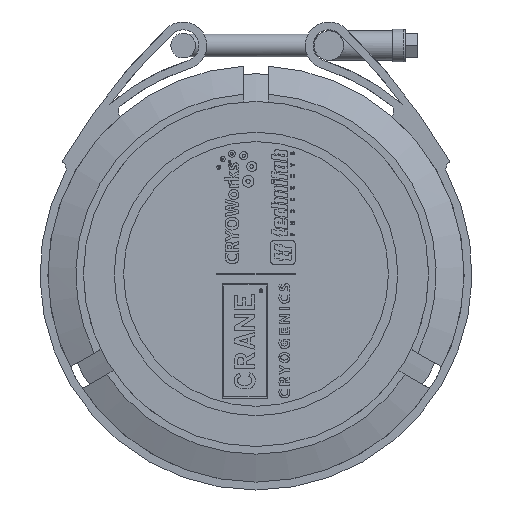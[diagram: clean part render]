
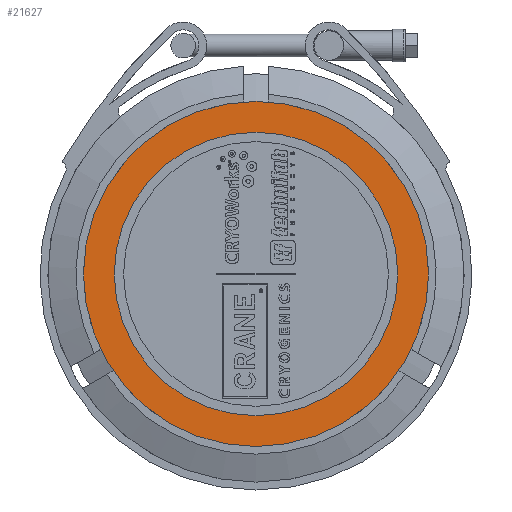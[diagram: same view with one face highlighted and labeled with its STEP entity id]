
A CAD part, left-side view. The second image highlights one B-rep face of the part: STEP entity #21627.
In plain terms, the highlighted planar face has unit normal (-1, 0, 0).
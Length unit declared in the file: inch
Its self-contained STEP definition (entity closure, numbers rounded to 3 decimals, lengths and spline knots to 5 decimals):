
#4431 = EDGE_CURVE ( 'NONE', #31042, #31042, #5918, .T. ) ;
#4682 = DIRECTION ( 'NONE',  ( -1., 0., 0. ) ) ;
#5828 = VERTEX_POINT ( 'NONE', #30180 ) ;
#5918 = CIRCLE ( 'NONE', #10870, 1.4375 ) ;
#6435 = DIRECTION ( 'NONE',  ( 0., 0., -1. ) ) ;
#6990 = CARTESIAN_POINT ( 'NONE',  ( -0.505, 0., 0. ) ) ;
#10870 = AXIS2_PLACEMENT_3D ( 'NONE', #13311, #30570, #6435 ) ;
#12594 = EDGE_LOOP ( 'NONE', ( #16169 ) ) ;
#12678 = EDGE_LOOP ( 'NONE', ( #15122 ) ) ;
#13311 = CARTESIAN_POINT ( 'NONE',  ( -0.505, 0., 0. ) ) ;
#14420 = CARTESIAN_POINT ( 'NONE',  ( -0.505, 1.4375, 0. ) ) ;
#14648 = CARTESIAN_POINT ( 'NONE',  ( -0.505, 0., -1.4375 ) ) ;
#15122 = ORIENTED_EDGE ( 'NONE', *, *, #4431, .T. ) ;
#16169 = ORIENTED_EDGE ( 'NONE', *, *, #36431, .F. ) ;
#21627 = ADVANCED_FACE ( 'NONE', ( #24606, #35026 ), #34800, .T. ) ;
#22334 = AXIS2_PLACEMENT_3D ( 'NONE', #14420, #4682, #42343 ) ;
#24606 = FACE_BOUND ( 'NONE', #12678, .T. ) ;
#26938 = DIRECTION ( 'NONE',  ( 0., 0., -1. ) ) ;
#30180 = CARTESIAN_POINT ( 'NONE',  ( -0.505, 0., -1.75 ) ) ;
#30467 = DIRECTION ( 'NONE',  ( 1., 0., 0. ) ) ;
#30570 = DIRECTION ( 'NONE',  ( 1., 0., 0. ) ) ;
#31042 = VERTEX_POINT ( 'NONE', #14648 ) ;
#34800 = PLANE ( 'NONE',  #22334 ) ;
#35026 = FACE_OUTER_BOUND ( 'NONE', #12594, .T. ) ;
#35541 = CIRCLE ( 'NONE', #39818, 1.75 ) ;
#36431 = EDGE_CURVE ( 'NONE', #5828, #5828, #35541, .T. ) ;
#39818 = AXIS2_PLACEMENT_3D ( 'NONE', #6990, #30467, #26938 ) ;
#42343 = DIRECTION ( 'NONE',  ( 0., 0., 1. ) ) ;
